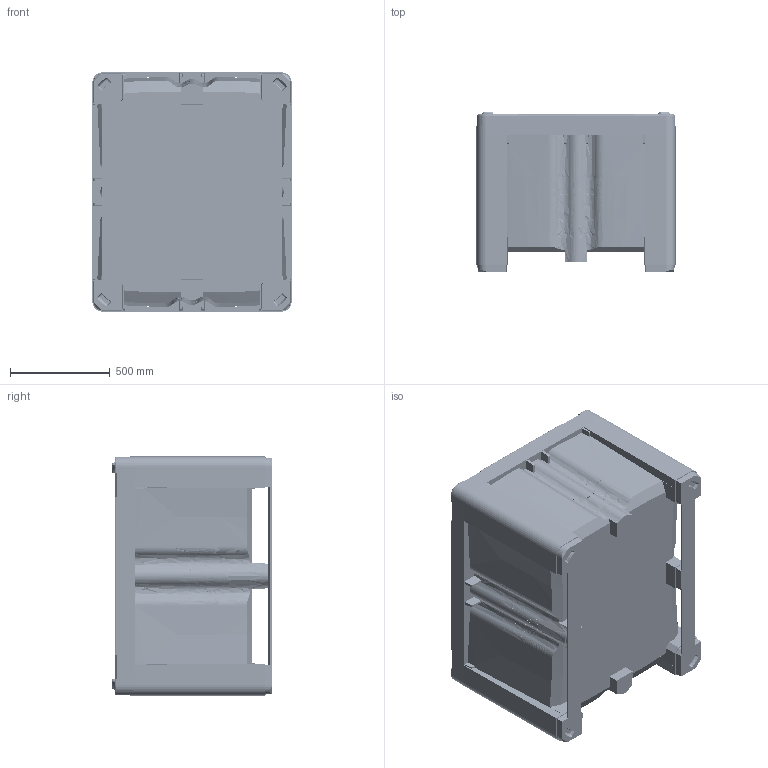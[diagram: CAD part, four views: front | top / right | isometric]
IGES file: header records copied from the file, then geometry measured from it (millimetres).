
Start section: SolidWorks IGES file using analytic representation for surfaces
Global section: file name: C:\ProdVault\Production Data\Hybrid 1012\1110xxxxxxxx 1012-790 Hybrid Block LongFoot 4way.IGS; native system: SolidWorks 2018; preprocessor: SolidWorks 2018; author: Todd Turner; date: 180824.170734; units: millimetre
Bounding box: 1000 x 802.5 x 1200 mm (x, y, z)
Surface area: 9985583.8 mm2 (no closed solid volume)
Topology: 0 solids, 0 shells, 6163 faces, 102814 edges, 102791 vertices
Faces by surface type: bspline 5673, revolution 490
